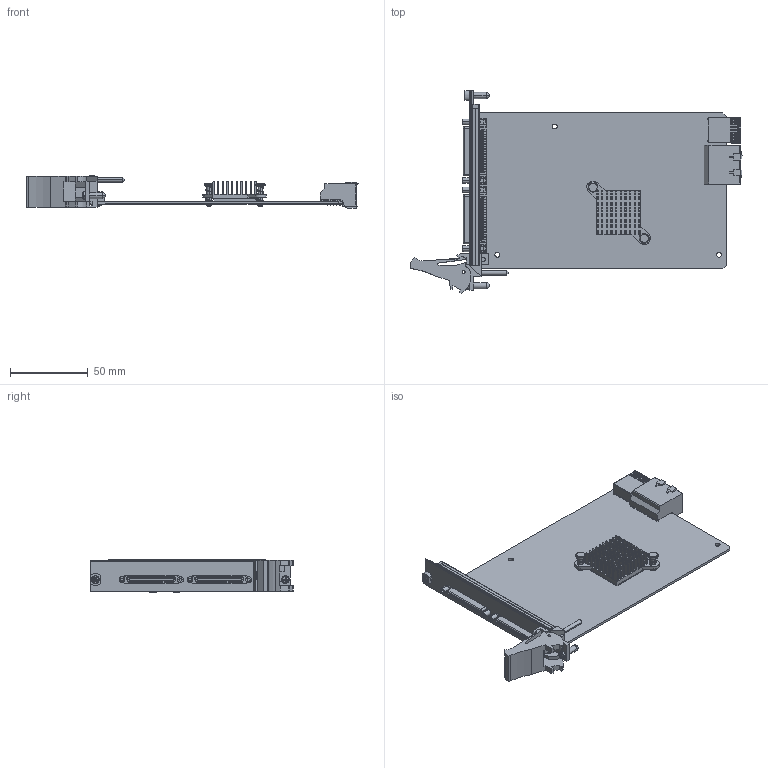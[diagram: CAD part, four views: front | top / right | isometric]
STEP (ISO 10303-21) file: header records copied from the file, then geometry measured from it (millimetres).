
FILE_DESCRIPTION((''),'2;1');
FILE_NAME('CUSTOMER_DWG_SW0001','2016-06-17T',('kleong'),(''),'CREO PARAMETRIC BY PTC INC, 2015380','CREO PARAMETRIC BY PTC INC, 2015380','');
FILE_SCHEMA(('CONFIG_CONTROL_DESIGN'));
Products named in the file (1): CUSTOMER_DWG_SW0001
Bounding box: 213.82 x 130.5 x 21.05 mm (x, y, z)
Volume: 62787.8 mm3; surface area: 65265 mm2
Topology: 1 solids, 5 shells, 7044 faces, 18586 edges, 12236 vertices
Faces by surface type: plane 5590, cylinder 1312, bspline 84, cone 36, sphere 14, torus 8
Entity records: 233120 total; most frequent: CARTESIAN_POINT 57309, ORIENTED_EDGE 37148, DIRECTION 34130, EDGE_CURVE 18574, VECTOR 14624, LINE 14624, VERTEX_POINT 12236, AXIS2_PLACEMENT_3D 9753
